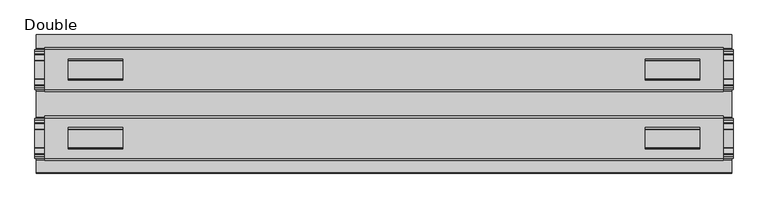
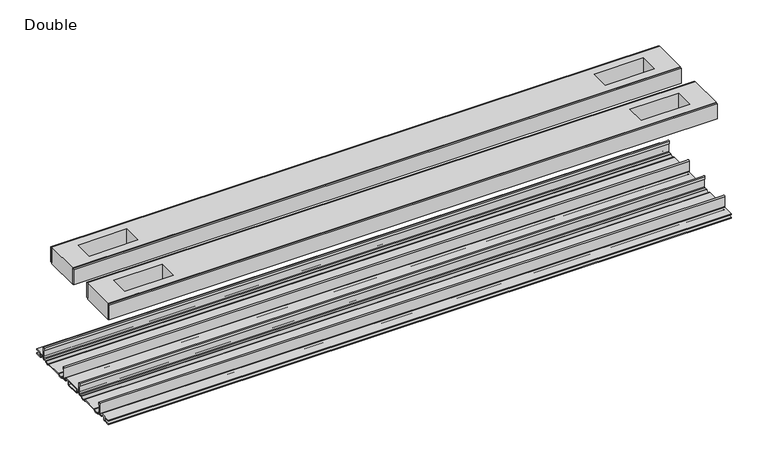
"""IFC4 building model written with IfcOpenShell, lengths in millimetres: proxy geometry, Frame-Teknion-FHCRA-Horizontal_Rail-R2022 : Double."""

from ifc_helpers import new_model, si_unit, point, frame, frame_2d, origin, place, context, project, spatial, polyline, circle_curve, trimmed, segment, composite_curve, outline, extrude, source, transform, mapped, element, save


def double_83665cc0(model_context):
    return source(origin(), model_context, "Body", "SweptSolid", [
        extrude(outline(composite_curve([segment(trimmed(circle_curve(frame_2d((76.6483061, -7.7516037)), 2.17424), [point((78.8225461, -7.7516037))], [point((76.6483061, -9.9258438))], False, "CARTESIAN"), True, "CONTINUOUS"), segment(polyline([(76.6483061, -9.9258438), (72.3573194, -9.9258438)]), True, "CONTINUOUS"), segment(trimmed(circle_curve(frame_2d((67.7769049, -6.4800016)), 5.7318431), [point((72.3573194, -9.9258438))], [point((63.1964904, -9.9258438))], False, "CARTESIAN"), True, "CONTINUOUS"), segment(polyline([(63.1964904, -9.9258438), (36.43501, -9.9258438)]), True, "CONTINUOUS"), segment(trimmed(circle_curve(frame_2d((31.8545955, -6.4800016)), 5.7318431), [point((36.43501, -9.9258438))], [point((27.274181, -9.9258438))], False, "CARTESIAN"), True, "CONTINUOUS"), segment(polyline([(27.274181, -9.9258438), (22.9831943, -9.9258438)]), True, "CONTINUOUS"), segment(trimmed(circle_curve(frame_2d((22.9831943, -7.7516037)), 2.17424), [point((22.9831943, -9.9258438))], [point((20.8089542, -7.7516037))], False, "CARTESIAN"), True, "CONTINUOUS"), segment(polyline([(20.8089542, -7.7516037), (20.8089542, 9.8607558)]), True, "CONTINUOUS"), segment(trimmed(circle_curve(frame_2d((22.0281522, 9.8607558)), 1.2191979), [point((20.8089542, 9.8607558))], [point((23.2473501, 9.8607558))], False, "CARTESIAN"), True, "CONTINUOUS"), segment(polyline([(23.2473501, 9.8607558), (23.2473501, 5.9999563), (21.9671735, 5.9999563), (21.9671735, -7.7516037)]), True, "CONTINUOUS"), segment(trimmed(circle_curve(frame_2d((22.9831943, -7.7516037)), 1.0160208), [point((21.9671735, -7.7516037))], [point((22.9766772, -8.7676036))], True, "CARTESIAN"), True, "CONTINUOUS"), segment(polyline([(22.9766772, -8.7676036), (26.9196277, -8.7676036), (27.8329895, -8.968753)]), True, "CONTINUOUS"), segment(trimmed(circle_curve(frame_2d((31.8579482, -6.1259382)), 4.9276657), [point((27.8329895, -8.968753))], [point((35.8829069, -8.968753))], True, "CARTESIAN"), True, "CONTINUOUS"), segment(polyline([(35.8829069, -8.968753), (36.7962778, -8.7676036), (62.8352226, -8.7676036), (63.7485934, -8.968753)]), True, "CONTINUOUS"), segment(trimmed(circle_curve(frame_2d((67.7735521, -6.1259382)), 4.9276657), [point((63.7485934, -8.968753))], [point((71.7985108, -8.968753))], True, "CARTESIAN"), True, "CONTINUOUS"), segment(polyline([(71.7985108, -8.968753), (72.7118726, -8.7676036), (76.6548232, -8.7676036)]), True, "CONTINUOUS"), segment(trimmed(circle_curve(frame_2d((76.6483061, -7.7516037)), 1.0160208), [point((76.6548232, -8.7676036))], [point((77.6643269, -7.7516037))], True, "CARTESIAN"), True, "CONTINUOUS"), segment(polyline([(77.6643269, -7.7516037), (77.6643269, 5.9999563), (76.3841503, 5.9999563), (76.3841503, 9.8607558)]), True, "CONTINUOUS"), segment(trimmed(circle_curve(frame_2d((77.6033482, 9.8607558)), 1.2191979), [point((76.3841503, 9.8607558))], [point((78.8225461, 9.8607558))], False, "CARTESIAN"), True, "CONTINUOUS"), segment(polyline([(78.8225461, 9.8607558), (78.8225461, -7.7516037)]), True, "CONTINUOUS")], self_intersect=False)), frame((-506.1204, 0.0, 0.0), z_axis=(1.0, 0.0, 0.0), x_axis=(0.0, 1.0, 0.0)), (0.0, 0.0, 1.0), 1012.2408),
        extrude(outline(composite_curve([segment(polyline([(-79.2035458, -7.7516037), (-79.2035458, 9.8607558)]), True, "CONTINUOUS"), segment(trimmed(circle_curve(frame_2d((-77.9843478, 9.8607558)), 1.2191979), [point((-79.2035458, 9.8607558))], [point((-76.7651499, 9.8607558))], False, "CARTESIAN"), True, "CONTINUOUS"), segment(polyline([(-76.7651499, 9.8607558), (-76.7651499, 5.9999563), (-78.0453265, 5.9999563), (-78.0453265, -7.7516037)]), True, "CONTINUOUS"), segment(trimmed(circle_curve(frame_2d((-77.0293057, -7.7516037)), 1.0160208), [point((-78.0453265, -7.7516037))], [point((-77.0358228, -8.7676036))], True, "CARTESIAN"), True, "CONTINUOUS"), segment(polyline([(-77.0358228, -8.7676036), (-73.0928723, -8.7676036), (-72.1795105, -8.968753)]), True, "CONTINUOUS"), segment(trimmed(circle_curve(frame_2d((-68.1545518, -6.1259382)), 4.9276657), [point((-72.1795105, -8.968753))], [point((-64.1295931, -8.968753))], True, "CARTESIAN"), True, "CONTINUOUS"), segment(polyline([(-64.1295931, -8.968753), (-63.2162222, -8.7676036), (-37.1772774, -8.7676036), (-36.2639066, -8.968753)]), True, "CONTINUOUS"), segment(trimmed(circle_curve(frame_2d((-32.2389479, -6.1259382)), 4.9276657), [point((-36.2639066, -8.968753))], [point((-28.2139892, -8.968753))], True, "CARTESIAN"), True, "CONTINUOUS"), segment(polyline([(-28.2139892, -8.968753), (-27.3006274, -8.7676036), (-23.3576768, -8.7676036)]), True, "CONTINUOUS"), segment(trimmed(circle_curve(frame_2d((-23.3641939, -7.7516037)), 1.0160208), [point((-23.3576768, -8.7676036))], [point((-22.3481731, -7.7516037))], True, "CARTESIAN"), True, "CONTINUOUS"), segment(polyline([(-22.3481731, -7.7516037), (-22.3481731, 5.9999563), (-23.6283497, 5.9999563), (-23.6283497, 9.8607558)]), True, "CONTINUOUS"), segment(trimmed(circle_curve(frame_2d((-22.4091518, 9.8607558)), 1.2191979), [point((-23.6283497, 9.8607558))], [point((-21.1899539, 9.8607558))], False, "CARTESIAN"), True, "CONTINUOUS"), segment(polyline([(-21.1899539, 9.8607558), (-21.1899539, -7.7516037)]), True, "CONTINUOUS"), segment(trimmed(circle_curve(frame_2d((-23.3641939, -7.7516037)), 2.17424), [point((-21.1899539, -7.7516037))], [point((-23.3641939, -9.9258438))], False, "CARTESIAN"), True, "CONTINUOUS"), segment(polyline([(-23.3641939, -9.9258438), (-27.6551806, -9.9258438)]), True, "CONTINUOUS"), segment(trimmed(circle_curve(frame_2d((-32.2355951, -6.4800016)), 5.7318431), [point((-27.6551806, -9.9258438))], [point((-36.8160096, -9.9258438))], False, "CARTESIAN"), True, "CONTINUOUS"), segment(polyline([(-36.8160096, -9.9258438), (-63.57749, -9.9258438)]), True, "CONTINUOUS"), segment(trimmed(circle_curve(frame_2d((-68.1579045, -6.4800016)), 5.7318431), [point((-63.57749, -9.9258438))], [point((-72.738319, -9.9258438))], False, "CARTESIAN"), True, "CONTINUOUS"), segment(polyline([(-72.738319, -9.9258438), (-77.0293057, -9.9258438)]), True, "CONTINUOUS"), segment(trimmed(circle_curve(frame_2d((-77.0293057, -7.7516037)), 2.17424), [point((-77.0293057, -9.9258438))], [point((-79.2035458, -7.7516037))], False, "CARTESIAN"), True, "CONTINUOUS")], self_intersect=False)), frame((-506.1204, 0.0, 0.0), z_axis=(1.0, 0.0, 0.0), x_axis=(0.0, 1.0, 0.0)), (0.0, 0.0, 1.0), 1012.2408),
        extrude(outline(polyline([(492.0615091, 78.8225461), (-492.0615091, 78.8225461), (-492.0615091, 81.9975522), (492.0615091, 81.9975522), (492.0615091, 78.8225461)])), frame((0.0, 0.0, 149.8401622), z_axis=(0.0, 0.0, 1.0), x_axis=(1.0, 0.0, 0.0)), (0.0, 0.0, 1.0), 25.3999939),
        extrude(outline(polyline([(492.0615091, 17.6339482), (-492.0615091, 17.6339482), (-492.0615091, 20.8089542), (492.0615091, 20.8089542), (492.0615091, 17.6339482)])), frame((0.0, 0.0, 149.8401622), z_axis=(0.0, 0.0, 1.0), x_axis=(1.0, 0.0, 0.0)), (0.0, 0.0, 1.0), 25.3999939),
        extrude(outline(polyline([(492.0615091, -21.1899493), (-492.0615091, -21.1899493), (-492.0615091, -18.0149501), (492.0615091, -18.0149501), (492.0615091, -21.1899493)])), frame((0.0, 0.0, 149.8401622), z_axis=(0.0, 0.0, 1.0), x_axis=(1.0, 0.0, 0.0)), (0.0, 0.0, 1.0), 25.3999939),
        extrude(outline(polyline([(492.0615091, -82.3785496), (-492.0615091, -82.3785496), (-492.0615091, -79.2035503), (492.0615091, -79.2035503), (492.0615091, -82.3785496)])), frame((0.0, 0.0, 149.8401622), z_axis=(0.0, 0.0, 1.0), x_axis=(1.0, 0.0, 0.0)), (0.0, 0.0, 1.0), 25.3999939),
        extrude(outline(polyline([(492.0615091, -79.2035503), (-492.0615091, -79.2035503), (-492.0615091, -21.1899493), (492.0615091, -21.1899493), (492.0615091, -79.2035503)]), holes=[polyline([(457.6444965, -65.3097536), (457.6444965, -34.3217468), (378.5996847, -34.3217468), (378.5996847, -65.3097536), (457.6444965, -65.3097536)]), polyline([(-457.6444965, -65.3097536), (-378.5996847, -65.3097536), (-378.5996847, -34.3217468), (-457.6444965, -34.3217468), (-457.6444965, -65.3097536)])]), frame((0.0, 0.0, 148.4185847), z_axis=(0.0, 0.0, 1.0), x_axis=(1.0, 0.0, 0.0)), (0.0, 0.0, 1.0), 27.9999988),
        extrude(outline(polyline([(492.0615091, 78.8225461), (492.0615091, 20.8224524), (-492.0615091, 20.8224524), (-492.0615091, 78.8225461), (492.0615091, 78.8225461)]), holes=[polyline([(457.6444965, 65.3097536), (378.5996847, 65.3097536), (378.5996847, 34.3217468), (457.6444965, 34.3217468), (457.6444965, 65.3097536)]), polyline([(-457.6444965, 65.3097536), (-457.6444965, 34.3217468), (-378.5996847, 34.3217468), (-378.5996847, 65.3097536), (-457.6444965, 65.3097536)])]), frame((0.0, 0.0, 148.4185847), z_axis=(0.0, 0.0, 1.0), x_axis=(1.0, 0.0, 0.0)), (0.0, 0.0, 1.0), 27.9999988),
        extrude(outline(composite_curve([segment(polyline([(100.2730922, -13.9898438), (89.6620022, -13.9898438)]), True, "CONTINUOUS"), segment(trimmed(circle_curve(frame_2d((89.6620022, -12.4658438)), 1.524), [point((89.6620022, -13.9898438))], [point((88.1380022, -12.4658438))], False, "CARTESIAN"), True, "CONTINUOUS"), segment(polyline([(88.1380022, -12.4658438), (88.1380022, -7.766844), (81.3117474, -7.766844), (81.3117474, -10.0528438)]), True, "CONTINUOUS"), segment(trimmed(circle_curve(frame_2d((79.7877474, -10.0528438)), 1.524), [point((81.3117474, -10.0528438))], [point((79.7877474, -11.5768438))], False, "CARTESIAN"), True, "CONTINUOUS"), segment(polyline([(79.7877474, -11.5768438), (73.2816053, -11.5768438)]), True, "CONTINUOUS"), segment(trimmed(circle_curve(frame_2d((67.7735521, -6.4968436)), 7.4930002), [point((73.2816053, -11.5768438))], [point((62.5157472, -11.8354331))], False, "CARTESIAN"), True, "CONTINUOUS"), segment(polyline([(62.5157472, -11.8354331), (37.1157532, -11.8354331)]), True, "CONTINUOUS"), segment(trimmed(circle_curve(frame_2d((31.8579482, -6.4968436)), 7.4930002), [point((37.1157532, -11.8354331))], [point((26.3498951, -11.5768438))], False, "CARTESIAN"), True, "CONTINUOUS"), segment(polyline([(26.3498951, -11.5768438), (19.8437529, -11.5768438)]), True, "CONTINUOUS"), segment(trimmed(circle_curve(frame_2d((19.8437529, -10.0528438)), 1.524), [point((19.8437529, -11.5768438))], [point((18.319753, -10.0528438))], False, "CARTESIAN"), True, "CONTINUOUS"), segment(polyline([(18.319753, -10.0528438), (18.319753, -7.766844), (11.4934981, -7.766844), (11.4934981, -12.4658438)]), True, "CONTINUOUS"), segment(trimmed(circle_curve(frame_2d((9.9694982, -12.4658438)), 1.524), [point((11.4934981, -12.4658438))], [point((9.9694982, -13.9898438))], False, "CARTESIAN"), True, "CONTINUOUS"), segment(polyline([(9.9694982, -13.9898438), (-10.3504978, -13.9898438)]), True, "CONTINUOUS"), segment(trimmed(circle_curve(frame_2d((-10.3504978, -12.4658438)), 1.524), [point((-10.3504978, -13.9898438))], [point((-11.8744978, -12.4658438))], False, "CARTESIAN"), True, "CONTINUOUS"), segment(polyline([(-11.8744978, -12.4658438), (-11.8744978, -7.766844), (-18.7007526, -7.766844), (-18.7007526, -10.0528438)]), True, "CONTINUOUS"), segment(trimmed(circle_curve(frame_2d((-20.2247526, -10.0528438)), 1.524), [point((-18.7007526, -10.0528438))], [point((-20.2247526, -11.5768438))], False, "CARTESIAN"), True, "CONTINUOUS"), segment(polyline([(-20.2247526, -11.5768438), (-26.7308947, -11.5768438)]), True, "CONTINUOUS"), segment(trimmed(circle_curve(frame_2d((-32.2389479, -6.4968436)), 7.4930002), [point((-26.7308947, -11.5768438))], [point((-37.4967528, -11.8354331))], False, "CARTESIAN"), True, "CONTINUOUS"), segment(polyline([(-37.4967528, -11.8354331), (-62.8967468, -11.8354331)]), True, "CONTINUOUS"), segment(trimmed(circle_curve(frame_2d((-68.1545518, -6.4968436)), 7.4930002), [point((-62.8967468, -11.8354331))], [point((-73.6626049, -11.5768438))], False, "CARTESIAN"), True, "CONTINUOUS"), segment(polyline([(-73.6626049, -11.5768438), (-80.1687471, -11.5768438)]), True, "CONTINUOUS"), segment(trimmed(circle_curve(frame_2d((-80.1687471, -10.0528438)), 1.524), [point((-80.1687471, -11.5768438))], [point((-81.692747, -10.0528438))], False, "CARTESIAN"), True, "CONTINUOUS"), segment(polyline([(-81.692747, -10.0528438), (-81.692747, -7.766844), (-88.5190019, -7.766844), (-88.5190019, -12.4658438)]), True, "CONTINUOUS"), segment(trimmed(circle_curve(frame_2d((-90.0430018, -12.4658438)), 1.524), [point((-88.5190019, -12.4658438))], [point((-90.0430018, -13.9898438))], False, "CARTESIAN"), True, "CONTINUOUS"), segment(polyline([(-90.0430018, -13.9898438), (-100.6540918, -13.9898438), (-100.6112708, -12.3388438), (-90.1700003, -12.3388438), (-90.1700003, -7.766844), (-100.6112708, -7.766844), (-100.6540918, -6.1158439), (-81.6301718, -6.1158439)]), True, "CONTINUOUS"), segment(trimmed(circle_curve(frame_2d((-81.6927482, -7.7656583)), 1.6510007), [point((-81.6301718, -6.1158439))], [point((-80.0417475, -7.7656583))], False, "CARTESIAN"), True, "CONTINUOUS"), segment(polyline([(-80.0417475, -7.7656583), (-80.0417475, -9.9258438), (-73.493084, -9.9258438)]), True, "CONTINUOUS"), segment(trimmed(circle_curve(frame_2d((-68.1545518, -5.2268471)), 7.1119966), [point((-73.493084, -9.9258438))], [point((-62.8160195, -9.9258438))], True, "CARTESIAN"), True, "CONTINUOUS"), segment(polyline([(-62.8160195, -9.9258438), (-37.5774801, -9.9258438)]), True, "CONTINUOUS"), segment(trimmed(circle_curve(frame_2d((-32.2389479, -5.2268471)), 7.1119966), [point((-37.5774801, -9.9258438))], [point((-26.9004156, -9.9258438))], True, "CARTESIAN"), True, "CONTINUOUS"), segment(polyline([(-26.9004156, -9.9258438), (-20.3517522, -9.9258438), (-20.3517522, -7.7656583)]), True, "CONTINUOUS"), segment(trimmed(circle_curve(frame_2d((-18.7007515, -7.7656583)), 1.6510007), [point((-20.3517522, -7.7656583))], [point((-18.7633278, -6.1158439))], False, "CARTESIAN"), True, "CONTINUOUS"), segment(polyline([(-18.7633278, -6.1158439), (18.3823282, -6.1158439)]), True, "CONTINUOUS"), segment(trimmed(circle_curve(frame_2d((18.3197518, -7.7656583)), 1.6510007), [point((18.3823282, -6.1158439))], [point((19.9707525, -7.7656583))], False, "CARTESIAN"), True, "CONTINUOUS"), segment(polyline([(19.9707525, -7.7656583), (19.9707525, -9.9258438), (26.519416, -9.9258438)]), True, "CONTINUOUS"), segment(trimmed(circle_curve(frame_2d((31.8579482, -5.2268471)), 7.1119966), [point((26.519416, -9.9258438))], [point((37.1964805, -9.9258438))], True, "CARTESIAN"), True, "CONTINUOUS"), segment(polyline([(37.1964805, -9.9258438), (62.4350199, -9.9258438)]), True, "CONTINUOUS"), segment(trimmed(circle_curve(frame_2d((67.7735521, -5.2268471)), 7.1119966), [point((62.4350199, -9.9258438))], [point((73.1120844, -9.9258438))], True, "CARTESIAN"), True, "CONTINUOUS"), segment(polyline([(73.1120844, -9.9258438), (79.6607478, -9.9258438), (79.6607478, -7.6398436)]), True, "CONTINUOUS"), segment(trimmed(circle_curve(frame_2d((81.1847475, -7.6398436)), 1.5239997), [point((79.6607478, -7.6398436))], [point((81.1847475, -6.1158439))], False, "CARTESIAN"), True, "CONTINUOUS"), segment(polyline([(81.1847475, -6.1158439), (100.2730922, -6.1158439), (100.2302711, -7.766844), (89.7890007, -7.766844), (89.7890007, -12.3388438), (100.2302711, -12.3388438), (100.2730922, -13.9898438)]), True, "CONTINUOUS")], self_intersect=False), holes=[polyline([(9.8424997, -12.3388438), (9.8424997, -7.766844), (-10.2234993, -7.766844), (-10.2234993, -12.3388438), (9.8424997, -12.3388438)])]), frame((-504.4694, 0.0, 0.0), z_axis=(1.0, 0.0, 0.0), x_axis=(0.0, 1.0, 0.0)), (0.0, 0.0, 1.0), 1008.9388),
    ])


if __name__ == "__main__":
    model = new_model("IFC4")
    model_context = context("Model", 3, world=origin())
    ifc_project = project(units=[si_unit("LENGTHUNIT", "METRE", prefix="MILLI")], contexts=[model_context])
    site = spatial("IfcSite", under=ifc_project)
    building = spatial("IfcBuilding", under=site)
    placement = place(None, origin())
    double_shape = double_83665cc0(model_context)
    element("IfcBuildingElementProxy", 1, Name="Frame-Teknion-FHCRA-Horizontal_Rail-R2022 : Double", ObjectType="Frame-Teknion-FHCRA-Horizontal_Rail-R2022 : Double", at=placement, inside=building, context=model_context, shape_type="MappedRepresentation", body=[
        mapped(double_shape, transform((0.0, 0.0, 0.0), x_axis=(1.0, 0.0, 0.0), y_axis=(0.0, 1.0, 0.0), z_axis=(0.0, 0.0, 1.0))),
    ])
    save(model, "model.ifc")
